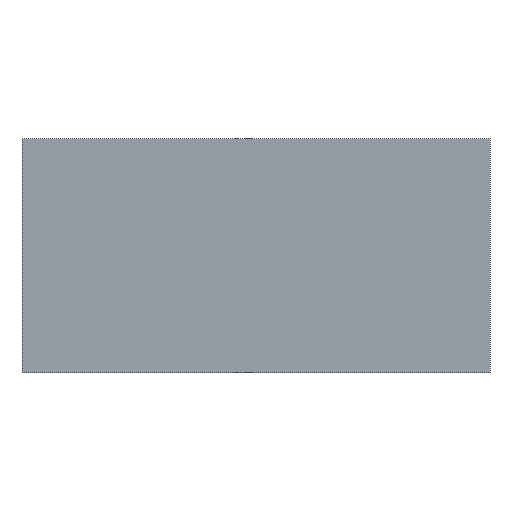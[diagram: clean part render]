
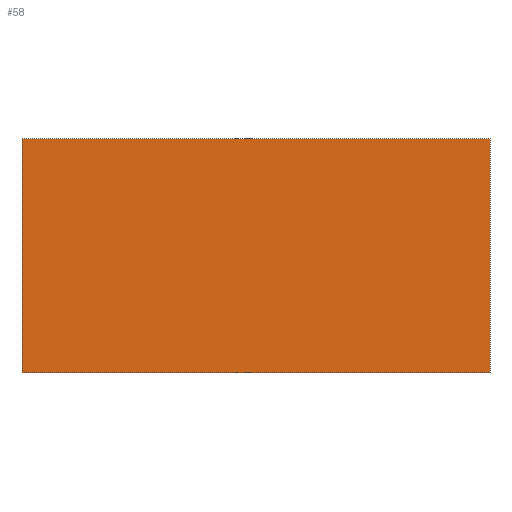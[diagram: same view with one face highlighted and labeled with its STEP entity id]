
A CAD part, left-side view. The second image highlights one B-rep face of the part: STEP entity #58.
In plain terms, the highlighted planar face has unit normal (-1, 0, 0).
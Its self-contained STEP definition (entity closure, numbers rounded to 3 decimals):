
#58 = ADVANCED_FACE('',(#59),#73,.F.);
#59 = FACE_BOUND('',#60,.F.);
#60 = EDGE_LOOP('',(#61,#96,#124,#152));
#61 = ORIENTED_EDGE('',*,*,#62,.F.);
#62 = EDGE_CURVE('',#63,#65,#67,.T.);
#63 = VERTEX_POINT('',#64);
#64 = CARTESIAN_POINT('',(0.,0.,0.));
#65 = VERTEX_POINT('',#66);
#66 = CARTESIAN_POINT('',(0.,0.,4.));
#67 = SURFACE_CURVE('',#68,(#72,#84),.PCURVE_S1.);
#68 = LINE('',#69,#70);
#69 = CARTESIAN_POINT('',(0.,0.,0.));
#70 = VECTOR('',#71,1.);
#71 = DIRECTION('',(0.,0.,1.));
#72 = PCURVE('',#73,#78);
#73 = PLANE('',#74);
#74 = AXIS2_PLACEMENT_3D('',#75,#76,#77);
#75 = CARTESIAN_POINT('',(0.,0.,0.));
#76 = DIRECTION('',(1.,0.,-0.));
#77 = DIRECTION('',(0.,0.,1.));
#78 = DEFINITIONAL_REPRESENTATION('',(#79),#83);
#79 = LINE('',#80,#81);
#80 = CARTESIAN_POINT('',(0.,0.));
#81 = VECTOR('',#82,1.);
#82 = DIRECTION('',(1.,0.));
#83 = ( GEOMETRIC_REPRESENTATION_CONTEXT(2) 
PARAMETRIC_REPRESENTATION_CONTEXT() REPRESENTATION_CONTEXT('2D SPACE',''
  ) );
#84 = PCURVE('',#85,#90);
#85 = PLANE('',#86);
#86 = AXIS2_PLACEMENT_3D('',#87,#88,#89);
#87 = CARTESIAN_POINT('',(0.,0.,0.));
#88 = DIRECTION('',(-0.,1.,0.));
#89 = DIRECTION('',(0.,0.,1.));
#90 = DEFINITIONAL_REPRESENTATION('',(#91),#95);
#91 = LINE('',#92,#93);
#92 = CARTESIAN_POINT('',(0.,0.));
#93 = VECTOR('',#94,1.);
#94 = DIRECTION('',(1.,0.));
#95 = ( GEOMETRIC_REPRESENTATION_CONTEXT(2) 
PARAMETRIC_REPRESENTATION_CONTEXT() REPRESENTATION_CONTEXT('2D SPACE',''
  ) );
#96 = ORIENTED_EDGE('',*,*,#97,.T.);
#97 = EDGE_CURVE('',#63,#98,#100,.T.);
#98 = VERTEX_POINT('',#99);
#99 = CARTESIAN_POINT('',(0.,8.,0.));
#100 = SURFACE_CURVE('',#101,(#105,#112),.PCURVE_S1.);
#101 = LINE('',#102,#103);
#102 = CARTESIAN_POINT('',(0.,0.,0.));
#103 = VECTOR('',#104,1.);
#104 = DIRECTION('',(-0.,1.,0.));
#105 = PCURVE('',#73,#106);
#106 = DEFINITIONAL_REPRESENTATION('',(#107),#111);
#107 = LINE('',#108,#109);
#108 = CARTESIAN_POINT('',(0.,0.));
#109 = VECTOR('',#110,1.);
#110 = DIRECTION('',(0.,-1.));
#111 = ( GEOMETRIC_REPRESENTATION_CONTEXT(2) 
PARAMETRIC_REPRESENTATION_CONTEXT() REPRESENTATION_CONTEXT('2D SPACE',''
  ) );
#112 = PCURVE('',#113,#118);
#113 = PLANE('',#114);
#114 = AXIS2_PLACEMENT_3D('',#115,#116,#117);
#115 = CARTESIAN_POINT('',(0.,0.,0.));
#116 = DIRECTION('',(0.,0.,1.));
#117 = DIRECTION('',(1.,0.,-0.));
#118 = DEFINITIONAL_REPRESENTATION('',(#119),#123);
#119 = LINE('',#120,#121);
#120 = CARTESIAN_POINT('',(0.,0.));
#121 = VECTOR('',#122,1.);
#122 = DIRECTION('',(0.,1.));
#123 = ( GEOMETRIC_REPRESENTATION_CONTEXT(2) 
PARAMETRIC_REPRESENTATION_CONTEXT() REPRESENTATION_CONTEXT('2D SPACE',''
  ) );
#124 = ORIENTED_EDGE('',*,*,#125,.T.);
#125 = EDGE_CURVE('',#98,#126,#128,.T.);
#126 = VERTEX_POINT('',#127);
#127 = CARTESIAN_POINT('',(0.,8.,4.));
#128 = SURFACE_CURVE('',#129,(#133,#140),.PCURVE_S1.);
#129 = LINE('',#130,#131);
#130 = CARTESIAN_POINT('',(0.,8.,0.));
#131 = VECTOR('',#132,1.);
#132 = DIRECTION('',(0.,0.,1.));
#133 = PCURVE('',#73,#134);
#134 = DEFINITIONAL_REPRESENTATION('',(#135),#139);
#135 = LINE('',#136,#137);
#136 = CARTESIAN_POINT('',(0.,-8.));
#137 = VECTOR('',#138,1.);
#138 = DIRECTION('',(1.,0.));
#139 = ( GEOMETRIC_REPRESENTATION_CONTEXT(2) 
PARAMETRIC_REPRESENTATION_CONTEXT() REPRESENTATION_CONTEXT('2D SPACE',''
  ) );
#140 = PCURVE('',#141,#146);
#141 = PLANE('',#142);
#142 = AXIS2_PLACEMENT_3D('',#143,#144,#145);
#143 = CARTESIAN_POINT('',(0.,8.,0.));
#144 = DIRECTION('',(-0.,1.,0.));
#145 = DIRECTION('',(0.,0.,1.));
#146 = DEFINITIONAL_REPRESENTATION('',(#147),#151);
#147 = LINE('',#148,#149);
#148 = CARTESIAN_POINT('',(0.,0.));
#149 = VECTOR('',#150,1.);
#150 = DIRECTION('',(1.,0.));
#151 = ( GEOMETRIC_REPRESENTATION_CONTEXT(2) 
PARAMETRIC_REPRESENTATION_CONTEXT() REPRESENTATION_CONTEXT('2D SPACE',''
  ) );
#152 = ORIENTED_EDGE('',*,*,#153,.F.);
#153 = EDGE_CURVE('',#65,#126,#154,.T.);
#154 = SURFACE_CURVE('',#155,(#159,#166),.PCURVE_S1.);
#155 = LINE('',#156,#157);
#156 = CARTESIAN_POINT('',(0.,0.,4.));
#157 = VECTOR('',#158,1.);
#158 = DIRECTION('',(-0.,1.,0.));
#159 = PCURVE('',#73,#160);
#160 = DEFINITIONAL_REPRESENTATION('',(#161),#165);
#161 = LINE('',#162,#163);
#162 = CARTESIAN_POINT('',(4.,0.));
#163 = VECTOR('',#164,1.);
#164 = DIRECTION('',(0.,-1.));
#165 = ( GEOMETRIC_REPRESENTATION_CONTEXT(2) 
PARAMETRIC_REPRESENTATION_CONTEXT() REPRESENTATION_CONTEXT('2D SPACE',''
  ) );
#166 = PCURVE('',#167,#172);
#167 = PLANE('',#168);
#168 = AXIS2_PLACEMENT_3D('',#169,#170,#171);
#169 = CARTESIAN_POINT('',(0.,0.,4.));
#170 = DIRECTION('',(0.,0.,1.));
#171 = DIRECTION('',(1.,0.,-0.));
#172 = DEFINITIONAL_REPRESENTATION('',(#173),#177);
#173 = LINE('',#174,#175);
#174 = CARTESIAN_POINT('',(0.,0.));
#175 = VECTOR('',#176,1.);
#176 = DIRECTION('',(0.,1.));
#177 = ( GEOMETRIC_REPRESENTATION_CONTEXT(2) 
PARAMETRIC_REPRESENTATION_CONTEXT() REPRESENTATION_CONTEXT('2D SPACE',''
  ) );
